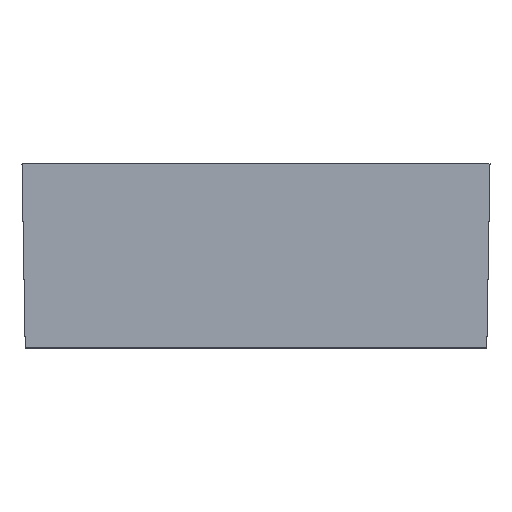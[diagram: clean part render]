
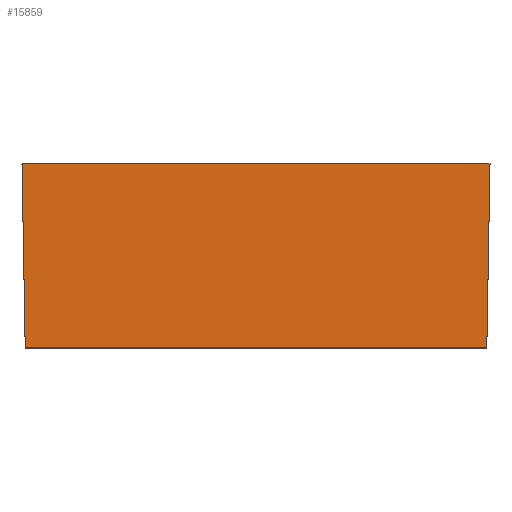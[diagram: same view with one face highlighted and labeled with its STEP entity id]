
A CAD part, top view. The second image highlights one B-rep face of the part: STEP entity #15859.
In plain terms, the highlighted planar face has unit normal (0, -0.018, 1).
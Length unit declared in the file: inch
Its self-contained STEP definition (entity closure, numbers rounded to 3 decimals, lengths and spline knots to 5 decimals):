
#233 = EDGE_LOOP ( 'NONE', ( #11985, #2376, #3164, #14781 ) ) ;
#366 = VERTEX_POINT ( 'NONE', #5389 ) ;
#1311 = DIRECTION ( 'NONE',  ( 1., 0., 0. ) ) ;
#1406 = DIRECTION ( 'NONE',  ( 0., -1., -0.017 ) ) ;
#1573 = VECTOR ( 'NONE', #3786, 39.37008 ) ;
#2066 = VERTEX_POINT ( 'NONE', #12961 ) ;
#2277 = VECTOR ( 'NONE', #1311, 39.37008 ) ;
#2376 = ORIENTED_EDGE ( 'NONE', *, *, #11129, .F. ) ;
#2684 = LINE ( 'NONE', #16128, #13731 ) ;
#2755 = CARTESIAN_POINT ( 'NONE',  ( 0., -1.375, 2.226 ) ) ;
#3103 = AXIS2_PLACEMENT_3D ( 'NONE', #15232, #9811, #1406 ) ;
#3164 = ORIENTED_EDGE ( 'NONE', *, *, #15107, .T. ) ;
#3786 = DIRECTION ( 'NONE',  ( 0.017, 1., 0.017 ) ) ;
#5183 = CARTESIAN_POINT ( 'NONE',  ( 1.74893, -0.06106, 2.24893 ) ) ;
#5389 = CARTESIAN_POINT ( 'NONE',  ( 1.75, 0., 2.25 ) ) ;
#6303 = VERTEX_POINT ( 'NONE', #12083 ) ;
#6967 = VERTEX_POINT ( 'NONE', #9814 ) ;
#7908 = DIRECTION ( 'NONE',  ( 1., 0., 0. ) ) ;
#9216 = VECTOR ( 'NONE', #10673, 39.37008 ) ;
#9264 = CARTESIAN_POINT ( 'NONE',  ( -1.74863, -0.0785, 2.24863 ) ) ;
#9811 = DIRECTION ( 'NONE',  ( 0., -0.017, 1. ) ) ;
#9814 = CARTESIAN_POINT ( 'NONE',  ( -1.75, 0., 2.25 ) ) ;
#10673 = DIRECTION ( 'NONE',  ( -0.017, 1., 0.017 ) ) ;
#11129 = EDGE_CURVE ( 'NONE', #6303, #6967, #16518, .T. ) ;
#11985 = ORIENTED_EDGE ( 'NONE', *, *, #12565, .F. ) ;
#12083 = CARTESIAN_POINT ( 'NONE',  ( -1.726, -1.375, 2.226 ) ) ;
#12565 = EDGE_CURVE ( 'NONE', #6967, #366, #2684, .T. ) ;
#12961 = CARTESIAN_POINT ( 'NONE',  ( 1.726, -1.375, 2.226 ) ) ;
#13333 = LINE ( 'NONE', #2755, #2277 ) ;
#13731 = VECTOR ( 'NONE', #7908, 39.37008 ) ;
#14605 = FACE_OUTER_BOUND ( 'NONE', #233, .T. ) ;
#14781 = ORIENTED_EDGE ( 'NONE', *, *, #16806, .T. ) ;
#15107 = EDGE_CURVE ( 'NONE', #6303, #2066, #13333, .T. ) ;
#15232 = CARTESIAN_POINT ( 'NONE',  ( -1.75, 0., 2.25 ) ) ;
#15859 = ADVANCED_FACE ( 'NONE', ( #14605 ), #17995, .T. ) ;
#15863 = LINE ( 'NONE', #5183, #1573 ) ;
#16128 = CARTESIAN_POINT ( 'NONE',  ( -1.75, 0., 2.25 ) ) ;
#16518 = LINE ( 'NONE', #9264, #9216 ) ;
#16806 = EDGE_CURVE ( 'NONE', #2066, #366, #15863, .T. ) ;
#17995 = PLANE ( 'NONE',  #3103 ) ;
